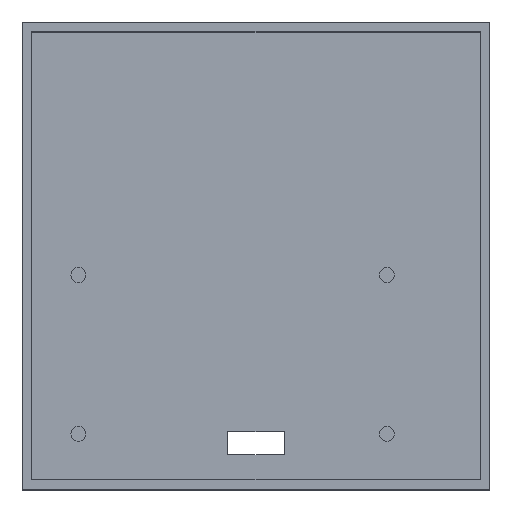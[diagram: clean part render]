
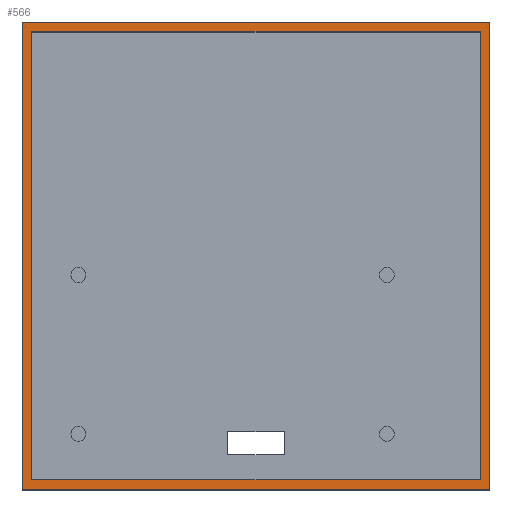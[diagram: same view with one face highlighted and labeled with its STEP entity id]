
A CAD part, top view. The second image highlights one B-rep face of the part: STEP entity #566.
In plain terms, the highlighted planar face has unit normal (0, 0, 1).
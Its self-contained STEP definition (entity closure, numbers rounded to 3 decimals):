
#24 = VERTEX_POINT('',#25);
#25 = CARTESIAN_POINT('',(100.,0.,92.));
#32 = PLANE('',#33);
#33 = AXIS2_PLACEMENT_3D('',#34,#35,#36);
#34 = CARTESIAN_POINT('',(100.,0.,0.));
#35 = DIRECTION('',(1.,0.,0.));
#36 = DIRECTION('',(0.,0.,1.));
#44 = PLANE('',#45);
#45 = AXIS2_PLACEMENT_3D('',#46,#47,#48);
#46 = CARTESIAN_POINT('',(0.,0.,0.));
#47 = DIRECTION('',(0.,1.,0.));
#48 = DIRECTION('',(0.,0.,1.));
#85 = VERTEX_POINT('',#86);
#86 = CARTESIAN_POINT('',(100.,100.,92.));
#100 = PLANE('',#101);
#101 = AXIS2_PLACEMENT_3D('',#102,#103,#104);
#102 = CARTESIAN_POINT('',(0.,100.,0.));
#103 = DIRECTION('',(0.,1.,0.));
#104 = DIRECTION('',(0.,0.,1.));
#112 = EDGE_CURVE('',#24,#85,#113,.T.);
#113 = SURFACE_CURVE('',#114,(#118,#125),.PCURVE_S1.);
#114 = LINE('',#115,#116);
#115 = CARTESIAN_POINT('',(100.,0.,92.));
#116 = VECTOR('',#117,1.);
#117 = DIRECTION('',(0.,1.,0.));
#118 = PCURVE('',#32,#119);
#119 = DEFINITIONAL_REPRESENTATION('',(#120),#124);
#120 = LINE('',#121,#122);
#121 = CARTESIAN_POINT('',(92.,0.));
#122 = VECTOR('',#123,1.);
#123 = DIRECTION('',(0.,-1.));
#124 = ( GEOMETRIC_REPRESENTATION_CONTEXT(2) 
PARAMETRIC_REPRESENTATION_CONTEXT() REPRESENTATION_CONTEXT('2D SPACE',''
  ) );
#125 = PCURVE('',#126,#131);
#126 = PLANE('',#127);
#127 = AXIS2_PLACEMENT_3D('',#128,#129,#130);
#128 = CARTESIAN_POINT('',(0.,0.,92.));
#129 = DIRECTION('',(0.,0.,1.));
#130 = DIRECTION('',(1.,0.,0.));
#131 = DEFINITIONAL_REPRESENTATION('',(#132),#136);
#132 = LINE('',#133,#134);
#133 = CARTESIAN_POINT('',(100.,0.));
#134 = VECTOR('',#135,1.);
#135 = DIRECTION('',(0.,1.));
#136 = ( GEOMETRIC_REPRESENTATION_CONTEXT(2) 
PARAMETRIC_REPRESENTATION_CONTEXT() REPRESENTATION_CONTEXT('2D SPACE',''
  ) );
#306 = VERTEX_POINT('',#307);
#307 = CARTESIAN_POINT('',(0.,0.,92.));
#321 = PLANE('',#322);
#322 = AXIS2_PLACEMENT_3D('',#323,#324,#325);
#323 = CARTESIAN_POINT('',(0.,0.,0.));
#324 = DIRECTION('',(1.,0.,0.));
#325 = DIRECTION('',(0.,0.,1.));
#333 = EDGE_CURVE('',#306,#24,#334,.T.);
#334 = SURFACE_CURVE('',#335,(#339,#346),.PCURVE_S1.);
#335 = LINE('',#336,#337);
#336 = CARTESIAN_POINT('',(0.,0.,92.));
#337 = VECTOR('',#338,1.);
#338 = DIRECTION('',(1.,0.,0.));
#339 = PCURVE('',#44,#340);
#340 = DEFINITIONAL_REPRESENTATION('',(#341),#345);
#341 = LINE('',#342,#343);
#342 = CARTESIAN_POINT('',(92.,0.));
#343 = VECTOR('',#344,1.);
#344 = DIRECTION('',(0.,1.));
#345 = ( GEOMETRIC_REPRESENTATION_CONTEXT(2) 
PARAMETRIC_REPRESENTATION_CONTEXT() REPRESENTATION_CONTEXT('2D SPACE',''
  ) );
#346 = PCURVE('',#126,#347);
#347 = DEFINITIONAL_REPRESENTATION('',(#348),#352);
#348 = LINE('',#349,#350);
#349 = CARTESIAN_POINT('',(0.,0.));
#350 = VECTOR('',#351,1.);
#351 = DIRECTION('',(1.,0.));
#352 = ( GEOMETRIC_REPRESENTATION_CONTEXT(2) 
PARAMETRIC_REPRESENTATION_CONTEXT() REPRESENTATION_CONTEXT('2D SPACE',''
  ) );
#566 = ADVANCED_FACE('',(#567,#615),#126,.T.);
#567 = FACE_BOUND('',#568,.T.);
#568 = EDGE_LOOP('',(#569,#592,#593,#594));
#569 = ORIENTED_EDGE('',*,*,#570,.F.);
#570 = EDGE_CURVE('',#306,#571,#573,.T.);
#571 = VERTEX_POINT('',#572);
#572 = CARTESIAN_POINT('',(0.,100.,92.));
#573 = SURFACE_CURVE('',#574,(#578,#585),.PCURVE_S1.);
#574 = LINE('',#575,#576);
#575 = CARTESIAN_POINT('',(0.,0.,92.));
#576 = VECTOR('',#577,1.);
#577 = DIRECTION('',(0.,1.,0.));
#578 = PCURVE('',#126,#579);
#579 = DEFINITIONAL_REPRESENTATION('',(#580),#584);
#580 = LINE('',#581,#582);
#581 = CARTESIAN_POINT('',(0.,0.));
#582 = VECTOR('',#583,1.);
#583 = DIRECTION('',(0.,1.));
#584 = ( GEOMETRIC_REPRESENTATION_CONTEXT(2) 
PARAMETRIC_REPRESENTATION_CONTEXT() REPRESENTATION_CONTEXT('2D SPACE',''
  ) );
#585 = PCURVE('',#321,#586);
#586 = DEFINITIONAL_REPRESENTATION('',(#587),#591);
#587 = LINE('',#588,#589);
#588 = CARTESIAN_POINT('',(92.,0.));
#589 = VECTOR('',#590,1.);
#590 = DIRECTION('',(0.,-1.));
#591 = ( GEOMETRIC_REPRESENTATION_CONTEXT(2) 
PARAMETRIC_REPRESENTATION_CONTEXT() REPRESENTATION_CONTEXT('2D SPACE',''
  ) );
#592 = ORIENTED_EDGE('',*,*,#333,.T.);
#593 = ORIENTED_EDGE('',*,*,#112,.T.);
#594 = ORIENTED_EDGE('',*,*,#595,.F.);
#595 = EDGE_CURVE('',#571,#85,#596,.T.);
#596 = SURFACE_CURVE('',#597,(#601,#608),.PCURVE_S1.);
#597 = LINE('',#598,#599);
#598 = CARTESIAN_POINT('',(0.,100.,92.));
#599 = VECTOR('',#600,1.);
#600 = DIRECTION('',(1.,0.,0.));
#601 = PCURVE('',#126,#602);
#602 = DEFINITIONAL_REPRESENTATION('',(#603),#607);
#603 = LINE('',#604,#605);
#604 = CARTESIAN_POINT('',(0.,100.));
#605 = VECTOR('',#606,1.);
#606 = DIRECTION('',(1.,0.));
#607 = ( GEOMETRIC_REPRESENTATION_CONTEXT(2) 
PARAMETRIC_REPRESENTATION_CONTEXT() REPRESENTATION_CONTEXT('2D SPACE',''
  ) );
#608 = PCURVE('',#100,#609);
#609 = DEFINITIONAL_REPRESENTATION('',(#610),#614);
#610 = LINE('',#611,#612);
#611 = CARTESIAN_POINT('',(92.,0.));
#612 = VECTOR('',#613,1.);
#613 = DIRECTION('',(0.,1.));
#614 = ( GEOMETRIC_REPRESENTATION_CONTEXT(2) 
PARAMETRIC_REPRESENTATION_CONTEXT() REPRESENTATION_CONTEXT('2D SPACE',''
  ) );
#615 = FACE_BOUND('',#616,.T.);
#616 = EDGE_LOOP('',(#617,#647,#675,#703));
#617 = ORIENTED_EDGE('',*,*,#618,.F.);
#618 = EDGE_CURVE('',#619,#621,#623,.T.);
#619 = VERTEX_POINT('',#620);
#620 = CARTESIAN_POINT('',(98.,2.,92.));
#621 = VERTEX_POINT('',#622);
#622 = CARTESIAN_POINT('',(98.,98.,92.));
#623 = SURFACE_CURVE('',#624,(#628,#635),.PCURVE_S1.);
#624 = LINE('',#625,#626);
#625 = CARTESIAN_POINT('',(98.,0.,92.));
#626 = VECTOR('',#627,1.);
#627 = DIRECTION('',(0.,1.,0.));
#628 = PCURVE('',#126,#629);
#629 = DEFINITIONAL_REPRESENTATION('',(#630),#634);
#630 = LINE('',#631,#632);
#631 = CARTESIAN_POINT('',(98.,0.));
#632 = VECTOR('',#633,1.);
#633 = DIRECTION('',(0.,1.));
#634 = ( GEOMETRIC_REPRESENTATION_CONTEXT(2) 
PARAMETRIC_REPRESENTATION_CONTEXT() REPRESENTATION_CONTEXT('2D SPACE',''
  ) );
#635 = PCURVE('',#636,#641);
#636 = PLANE('',#637);
#637 = AXIS2_PLACEMENT_3D('',#638,#639,#640);
#638 = CARTESIAN_POINT('',(98.,0.,0.));
#639 = DIRECTION('',(1.,0.,0.));
#640 = DIRECTION('',(0.,0.,1.));
#641 = DEFINITIONAL_REPRESENTATION('',(#642),#646);
#642 = LINE('',#643,#644);
#643 = CARTESIAN_POINT('',(92.,0.));
#644 = VECTOR('',#645,1.);
#645 = DIRECTION('',(0.,-1.));
#646 = ( GEOMETRIC_REPRESENTATION_CONTEXT(2) 
PARAMETRIC_REPRESENTATION_CONTEXT() REPRESENTATION_CONTEXT('2D SPACE',''
  ) );
#647 = ORIENTED_EDGE('',*,*,#648,.F.);
#648 = EDGE_CURVE('',#649,#619,#651,.T.);
#649 = VERTEX_POINT('',#650);
#650 = CARTESIAN_POINT('',(2.,2.,92.));
#651 = SURFACE_CURVE('',#652,(#656,#663),.PCURVE_S1.);
#652 = LINE('',#653,#654);
#653 = CARTESIAN_POINT('',(0.,2.,92.));
#654 = VECTOR('',#655,1.);
#655 = DIRECTION('',(1.,0.,0.));
#656 = PCURVE('',#126,#657);
#657 = DEFINITIONAL_REPRESENTATION('',(#658),#662);
#658 = LINE('',#659,#660);
#659 = CARTESIAN_POINT('',(0.,2.));
#660 = VECTOR('',#661,1.);
#661 = DIRECTION('',(1.,0.));
#662 = ( GEOMETRIC_REPRESENTATION_CONTEXT(2) 
PARAMETRIC_REPRESENTATION_CONTEXT() REPRESENTATION_CONTEXT('2D SPACE',''
  ) );
#663 = PCURVE('',#664,#669);
#664 = PLANE('',#665);
#665 = AXIS2_PLACEMENT_3D('',#666,#667,#668);
#666 = CARTESIAN_POINT('',(0.,2.,0.));
#667 = DIRECTION('',(0.,1.,0.));
#668 = DIRECTION('',(0.,0.,1.));
#669 = DEFINITIONAL_REPRESENTATION('',(#670),#674);
#670 = LINE('',#671,#672);
#671 = CARTESIAN_POINT('',(92.,0.));
#672 = VECTOR('',#673,1.);
#673 = DIRECTION('',(0.,1.));
#674 = ( GEOMETRIC_REPRESENTATION_CONTEXT(2) 
PARAMETRIC_REPRESENTATION_CONTEXT() REPRESENTATION_CONTEXT('2D SPACE',''
  ) );
#675 = ORIENTED_EDGE('',*,*,#676,.T.);
#676 = EDGE_CURVE('',#649,#677,#679,.T.);
#677 = VERTEX_POINT('',#678);
#678 = CARTESIAN_POINT('',(2.,98.,92.));
#679 = SURFACE_CURVE('',#680,(#684,#691),.PCURVE_S1.);
#680 = LINE('',#681,#682);
#681 = CARTESIAN_POINT('',(2.,0.,92.));
#682 = VECTOR('',#683,1.);
#683 = DIRECTION('',(0.,1.,0.));
#684 = PCURVE('',#126,#685);
#685 = DEFINITIONAL_REPRESENTATION('',(#686),#690);
#686 = LINE('',#687,#688);
#687 = CARTESIAN_POINT('',(2.,0.));
#688 = VECTOR('',#689,1.);
#689 = DIRECTION('',(0.,1.));
#690 = ( GEOMETRIC_REPRESENTATION_CONTEXT(2) 
PARAMETRIC_REPRESENTATION_CONTEXT() REPRESENTATION_CONTEXT('2D SPACE',''
  ) );
#691 = PCURVE('',#692,#697);
#692 = PLANE('',#693);
#693 = AXIS2_PLACEMENT_3D('',#694,#695,#696);
#694 = CARTESIAN_POINT('',(2.,0.,0.));
#695 = DIRECTION('',(1.,0.,0.));
#696 = DIRECTION('',(0.,0.,1.));
#697 = DEFINITIONAL_REPRESENTATION('',(#698),#702);
#698 = LINE('',#699,#700);
#699 = CARTESIAN_POINT('',(92.,0.));
#700 = VECTOR('',#701,1.);
#701 = DIRECTION('',(0.,-1.));
#702 = ( GEOMETRIC_REPRESENTATION_CONTEXT(2) 
PARAMETRIC_REPRESENTATION_CONTEXT() REPRESENTATION_CONTEXT('2D SPACE',''
  ) );
#703 = ORIENTED_EDGE('',*,*,#704,.T.);
#704 = EDGE_CURVE('',#677,#621,#705,.T.);
#705 = SURFACE_CURVE('',#706,(#710,#717),.PCURVE_S1.);
#706 = LINE('',#707,#708);
#707 = CARTESIAN_POINT('',(0.,98.,92.));
#708 = VECTOR('',#709,1.);
#709 = DIRECTION('',(1.,0.,0.));
#710 = PCURVE('',#126,#711);
#711 = DEFINITIONAL_REPRESENTATION('',(#712),#716);
#712 = LINE('',#713,#714);
#713 = CARTESIAN_POINT('',(0.,98.));
#714 = VECTOR('',#715,1.);
#715 = DIRECTION('',(1.,0.));
#716 = ( GEOMETRIC_REPRESENTATION_CONTEXT(2) 
PARAMETRIC_REPRESENTATION_CONTEXT() REPRESENTATION_CONTEXT('2D SPACE',''
  ) );
#717 = PCURVE('',#718,#723);
#718 = PLANE('',#719);
#719 = AXIS2_PLACEMENT_3D('',#720,#721,#722);
#720 = CARTESIAN_POINT('',(0.,98.,0.));
#721 = DIRECTION('',(0.,1.,0.));
#722 = DIRECTION('',(0.,0.,1.));
#723 = DEFINITIONAL_REPRESENTATION('',(#724),#728);
#724 = LINE('',#725,#726);
#725 = CARTESIAN_POINT('',(92.,0.));
#726 = VECTOR('',#727,1.);
#727 = DIRECTION('',(0.,1.));
#728 = ( GEOMETRIC_REPRESENTATION_CONTEXT(2) 
PARAMETRIC_REPRESENTATION_CONTEXT() REPRESENTATION_CONTEXT('2D SPACE',''
  ) );
